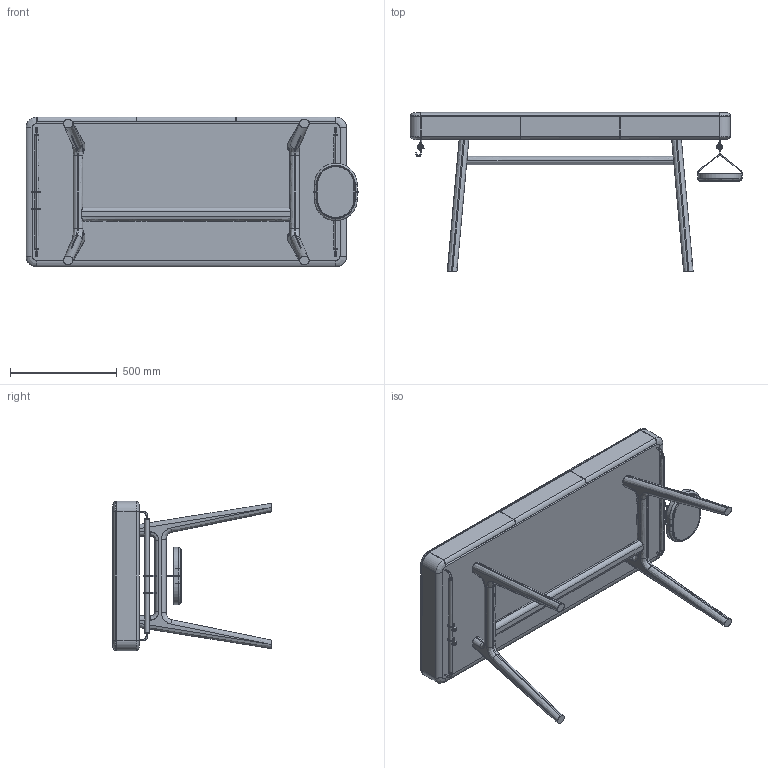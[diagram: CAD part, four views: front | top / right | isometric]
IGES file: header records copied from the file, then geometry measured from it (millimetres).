
Start section: SolidWorks IGES file using analytic representation for surfaces
Global section: file name: E:\Box Sync\Neri & Hu\784 Solo Desk\sales related\SW\784 Solo Desk.IGS; native system: SolidWorks 2016; preprocessor: SolidWorks 2016; author: Kumagai; date: 180214.172548; units: millimetre
Bounding box: 1554 x 743.49 x 700 mm (x, y, z)
Surface area: 3591960.2 mm2 (no closed solid volume)
Topology: 0 solids, 0 shells, 392 faces, 5741 edges, 5741 vertices
Faces by surface type: bspline 225, revolution 167
